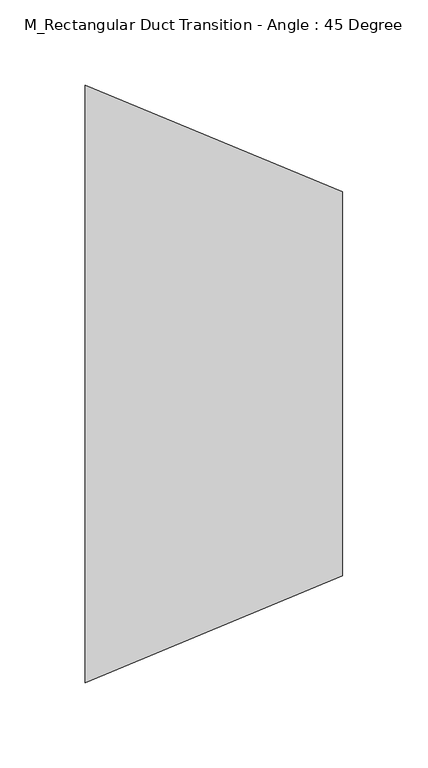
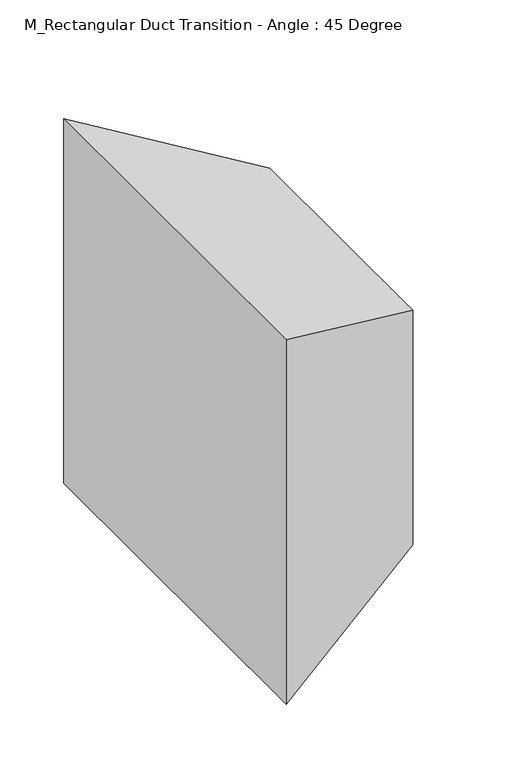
"""IFC4 building model written with IfcOpenShell, lengths in millimetres: duct fitting geometry, M_Rectangular Duct Transition - Angle : 45 Degree."""

from ifc_helpers import new_model, si_unit, origin, place, context, project, spatial, faceted_brep, source, transform, mapped, element, save


def m_rectangular_duct_transition_angle_45_degree_03303498(model_context):
    return source(origin(), model_context, "Body", "Brep", [
        faceted_brep([(150.8883476, -112.5, 112.5), (150.8883476, -112.5, -112.5), (150.8883476, 112.5, -112.5), (150.8883476, 112.5, 112.5), (0.0, -175.0, 175.0), (0.0, 175.0, 175.0), (0.0, 175.0, -175.0), (0.0, -175.0, -175.0)], [[[0, 1, 2, 3]], [[4, 5, 6, 7]], [[4, 7, 1, 0]], [[7, 6, 2, 1]], [[6, 5, 3, 2]], [[5, 4, 0, 3]]]),
        faceted_brep([(150.8883476, -112.5, 112.5), (150.8883476, -112.5, -112.5), (150.8883476, 112.5, -112.5), (150.8883476, 112.5, 112.5), (0.0, -175.0, 175.0), (0.0, 175.0, 175.0), (0.0, 175.0, -175.0), (0.0, -175.0, -175.0)], [[[0, 1, 2, 3]], [[4, 5, 6, 7]], [[4, 7, 1, 0]], [[7, 6, 2, 1]], [[6, 5, 3, 2]], [[5, 4, 0, 3]]]),
        faceted_brep([(150.8883476, -112.5, 112.5), (150.8883476, -112.5, -112.5), (150.8883476, 112.5, -112.5), (150.8883476, 112.5, 112.5), (0.0, -175.0, 175.0), (0.0, 175.0, 175.0), (0.0, 175.0, -175.0), (0.0, -175.0, -175.0)], [[[0, 1, 2, 3]], [[4, 5, 6, 7]], [[4, 7, 1, 0]], [[7, 6, 2, 1]], [[6, 5, 3, 2]], [[5, 4, 0, 3]]]),
    ])


if __name__ == "__main__":
    model = new_model("IFC4")
    model_context = context("Model", 3, world=origin())
    ifc_project = project(units=[si_unit("LENGTHUNIT", "METRE", prefix="MILLI")], contexts=[model_context])
    site = spatial("IfcSite", under=ifc_project)
    building = spatial("IfcBuilding", under=site)
    placement = place(None, origin())
    m_rectangular_duct_transition_angle_45_degree_shape = m_rectangular_duct_transition_angle_45_degree_03303498(model_context)
    element("IfcDuctFitting", 1, ObjectType="M_Rectangular Duct Transition - Angle : 45 Degree", at=placement, inside=building, context=model_context, shape_type="MappedRepresentation", body=[
        mapped(m_rectangular_duct_transition_angle_45_degree_shape, transform((0.0, 0.0, 0.0), x_axis=(1.0, 0.0, 0.0), y_axis=(0.0, 1.0, 0.0), z_axis=(0.0, 0.0, 1.0))),
    ])
    save(model, "model.ifc")
